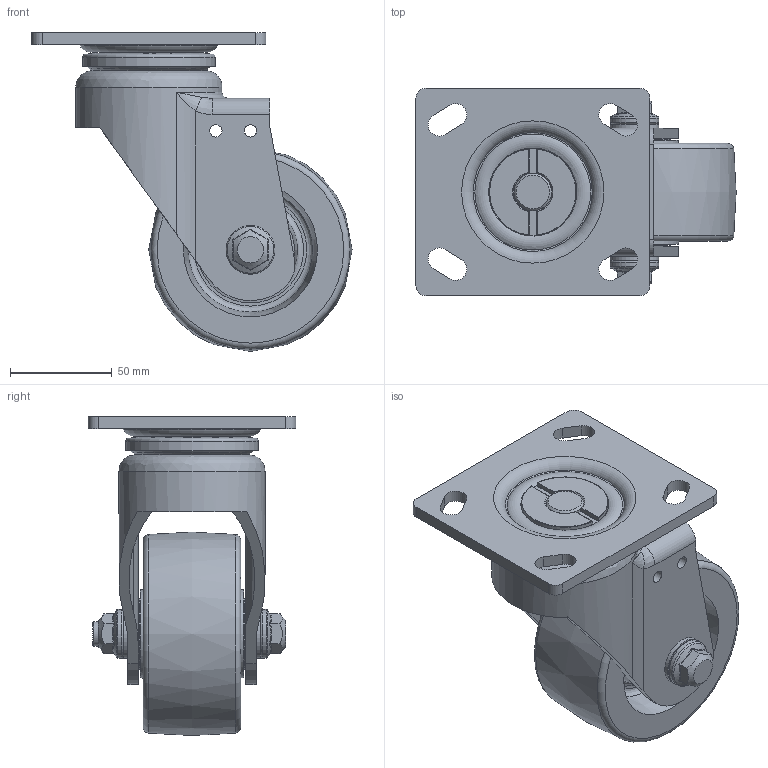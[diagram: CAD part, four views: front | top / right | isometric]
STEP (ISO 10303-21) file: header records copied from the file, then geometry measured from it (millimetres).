
FILE_DESCRIPTION((''),'2;1');
FILE_NAME('C:\Documents and Settings\Administrator\바탕 화면\3D STEP\GH-SERIES\GH-100\GH-100A-SF.stp','2010-12-27T14:24:24',('Administrator'),(''),'Autodesk Inventor 2009','Autodesk Inventor 2009','');
FILE_SCHEMA(('AUTOMOTIVE_DESIGN { 1 0 10303 214 1 1 1 1 }'));
Length unit declared in the file: millimetre
Products named in the file (1): GH-100A-SF
Bounding box: 157.5 x 102 x 156.88 mm (x, y, z)
Volume: 503977.1 mm3; surface area: 141070.9 mm2
Topology: 10 solids, 12 shells, 262 faces, 610 edges, 391 vertices
Faces by surface type: plane 84, cylinder 68, bspline 50, torus 39, cone 21
Full cylindrical faces by diameter (mm): 6.1 x4, 12 x1, 15 x2, 15.2 x2, 18.5 x2, 21.5 x1, 22 x1, 24 x4, 29.9 x1, 30.5 x2, 31 x1, 31.615 x2, 35 x2, 41 x1, 44 x2, 48.961 x2, 61 x1, 62 x1, 63.14 x1, 65.14 x1, 72 x1
Entity records: 9796 total; most frequent: CARTESIAN_POINT 4508, DIRECTION 1043, ORIENTED_EDGE 942, EDGE_CURVE 471, AXIS2_PLACEMENT_3D 460, EDGE_LOOP 436, VERTEX_POINT 359, FACE_OUTER_BOUND 260
